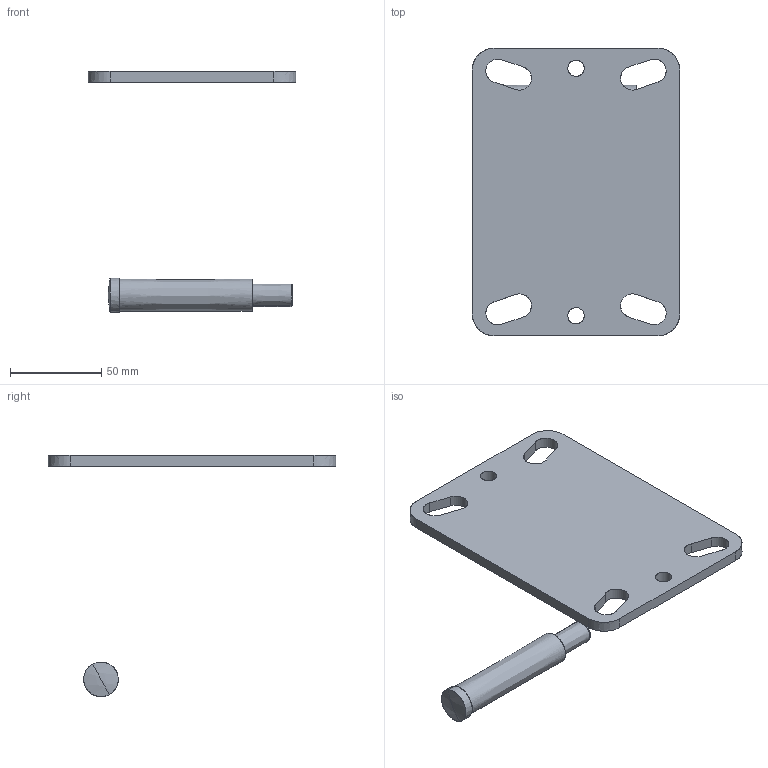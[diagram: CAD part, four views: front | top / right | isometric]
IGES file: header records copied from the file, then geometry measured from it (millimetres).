
Start section: JAMA-IS VERSION  1.0
Global section: file name: E:\tools-models\その他メーカー2\INOAC車輪\9月\KTU-150WK-GS-11.igs; native system: CAM-TOOL; preprocessor: C3out Version 11.1.1.50212 (2015/02/12); author: NONE; organization: NONE; date: 190925.155054; units: millimetre
Bounding box: 114 x 158 x 132.5 mm (x, y, z)
Surface area: 48008.4 mm2 (no closed solid volume)
Topology: 0 solids, 0 shells, 41 faces, 1328 edges, 1322 vertices
Faces by surface type: bspline 41
